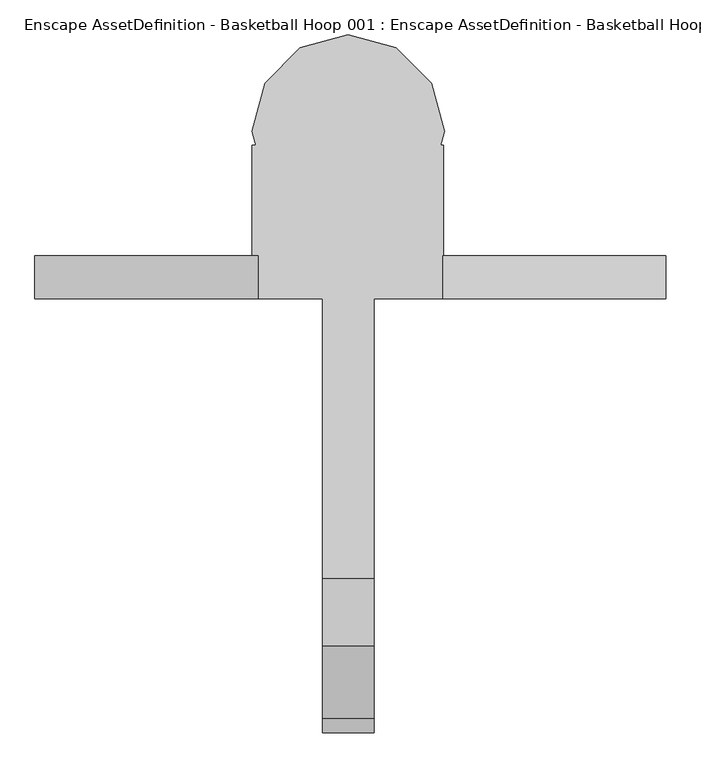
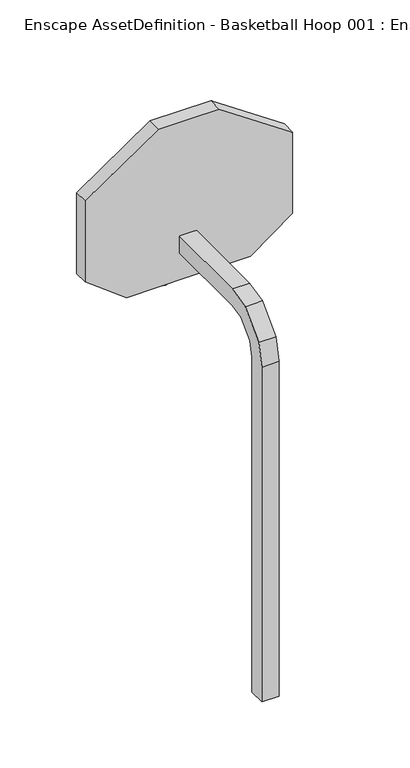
"""IFC4 building model written with IfcOpenShell, lengths in millimetres: geographic element geometry, Enscape AssetDefinition - Basketball Hoop 001 : Enscape AssetDefinition - Basketball Hoop 001."""

from ifc_helpers import new_model, si_unit, origin, place, context, project, spatial, triangles, source, transform, mapped, element, save


def enscape_assetdefinition_basketball_hoop_001_enscape_23c26aad(model_context):
    return source(origin(), model_context, "Body", "Tessellation", [
        triangles([(222.4868194, 1332.3317574, 2721.397261), (192.6792274, 1221.0882568, 2721.397261), (97.4517733, 1276.0677498, 2299.3959846), (-1e-05, 1109.8449017, 2721.397261), (111.2434097, 1139.6524572, 2721.397261), (112.5276064, 1332.331612, 2299.3959846), (-56.2638214, 1234.8800022, 2299.3959846), (-1.99e-05, 1219.8040329, 2299.3959846), (56.2637986, 1234.8800022, 2299.3959846), (-192.6792274, 1221.0882568, 2721.397261), (-111.2434097, 1139.6524572, 2721.397261), (-112.5276336, 1332.331612, 2299.3959846), (-97.4517824, 1276.0677498, 2299.3959846), (-222.4868194, 1332.3317574, 2721.397261), (-192.6792638, 1443.5749672, 2721.397261), (-3.99e-05, 1332.3317574, 2721.397261), (-97.4518096, 1388.5953289, 2299.3959846), (-56.2638622, 1429.7833672, 2299.3959846), (-111.2434824, 1525.0109848, 2721.397261), (-6.98e-05, 1444.8591911, 2299.3959846), (-9.97e-05, 1554.8186131, 2721.397261), (111.2433188, 1525.0111301, 2721.397261), (97.4517279, 1388.5954742, 2299.3959846), (192.6791729, 1443.5754032, 2721.397261), (56.2637441, 1429.7835125, 2299.3959846), (220.3278305, 1299.4875412, 2699.023336), (-222.9221852, 1299.4875412, 2699.023336), (-222.9221852, 1299.4875412, 2726.3524818), (-222.9221852, 1031.2447575, 2549.1307411), (220.3278305, 1031.2447575, 2549.1307411), (220.3278305, 1299.4875412, 2726.3524818), (220.3278305, 1031.2449028, 2726.3524818), (-222.9221852, 1031.2449028, 2726.3524818), (735.9803673, 1044.2596607, 2745.6908363), (735.9803673, 944.5943779, 3347.8168739), (735.9803673, 1044.2596607, 3347.8168739), (218.4450239, 1044.2598787, 3700.0003189), (735.9803673, 944.5942326, 2745.6908363), (442.0572833, 1044.2594427, 2526.4385216), (442.0572833, 944.5941599, 2526.4385216), (5.3916358, 1044.2594427, 2526.4385216), (-431.2740026, 1044.2594427, 2526.4385216), (-725.1972319, 1044.2596607, 3347.8168739), (-725.1972319, 1044.2596607, 2745.6908363), (-725.1972319, 944.5942326, 2745.6908363), (-431.2740026, 944.5941599, 2526.4385216), (-725.1972319, 944.5942326, 2971.8997032), (-725.1972319, 944.5943779, 3347.8168739), (5.3916358, 944.5941599, 2526.4385216), (-207.6617613, 944.5945232, 3700.0003189), (5.3916358, 944.5945232, 3700.0003189), (-207.6617613, 1044.2598787, 3700.0003189), (5.3916358, 1044.2598787, 3700.0003189), (218.4450239, 944.5945232, 3700.0003189), (-59.7992024, -59.7992024, 1e-05), (-59.7992024, 59.7992024, -1e-05), (59.7992024, 59.7992024, -1e-05), (59.7992024, -59.7992024, 1e-05), (59.7992024, -59.7987936, 2487.9490105), (-59.7992024, 59.7996112, 2487.9490105), (59.7992024, 59.7996112, 2487.9490105), (59.7992024, -25.6329467, 2651.5794296), (-59.7992024, -59.7987936, 2487.9490105), (-59.7992024, -25.6329467, 2651.5794296), (-59.7992115, 141.2951818, 2815.6915054), (59.7992024, 84.6830396, 2597.7940498), (59.7992024, 195.4824902, 2704.9197784), (-59.7992024, 195.4824902, 2704.9197784), (-59.7992024, 84.6830396, 2597.7940498), (59.7991888, 141.2951818, 2815.6915054), (-59.7992206, 298.4719524, 2853.905452), (59.7991888, 304.0134564, 2727.5701401), (-59.7992115, 304.0134564, 2727.5701401), (59.7991661, 968.0462168, 2727.5695587), (-59.7992524, 968.0462168, 2853.9051613), (-59.7992387, 968.0462168, 2727.5695587), (59.7991842, 298.4719524, 2853.905452), (59.7991524, 968.0462168, 2853.9051613)], [[75, 78, 76], [74, 76, 78], [74, 78, 72], [78, 75, 77], [77, 72, 78], [75, 76, 71], [71, 77, 75], [73, 71, 76], [76, 74, 73], [72, 73, 74], [73, 72, 68], [72, 77, 67], [67, 68, 72], [77, 71, 70], [70, 67, 77], [71, 73, 65], [68, 65, 73], [65, 70, 71], [65, 68, 64], [69, 64, 68], [68, 67, 69], [67, 70, 66], [66, 69, 67], [70, 65, 62], [64, 62, 65], [62, 66, 70], [62, 64, 59], [64, 69, 63], [63, 59, 64], [60, 63, 69], [69, 66, 60], [66, 62, 61], [59, 61, 62], [61, 60, 66], [61, 59, 57], [59, 63, 58], [58, 57, 59], [63, 60, 55], [55, 58, 63], [56, 55, 60], [60, 61, 56], [57, 56, 61], [57, 58, 56], [55, 56, 58], [53, 52, 51], [54, 37, 51], [53, 51, 37], [50, 51, 52], [50, 52, 48], [43, 48, 52], [43, 44, 48], [48, 44, 47], [48, 49, 50], [48, 47, 49], [49, 51, 50], [54, 51, 49], [45, 49, 47], [44, 45, 47], [46, 49, 45], [45, 44, 46], [42, 46, 44], [43, 41, 44], [53, 41, 52], [53, 37, 41], [52, 41, 43], [42, 41, 46], [49, 46, 41], [44, 41, 42], [49, 41, 40], [39, 40, 41], [40, 38, 49], [39, 41, 34], [39, 34, 40], [38, 40, 34], [37, 36, 41], [34, 41, 36], [35, 54, 49], [36, 37, 35], [54, 35, 37], [38, 35, 49], [38, 34, 35], [36, 35, 34], [33, 32, 28], [31, 28, 32], [31, 32, 26], [32, 33, 30], [30, 26, 32], [33, 28, 29], [29, 30, 33], [27, 29, 28], [28, 31, 27], [26, 27, 31], [26, 30, 27], [29, 27, 30], [25, 23, 6], [18, 25, 6], [20, 25, 18], [23, 25, 24], [22, 24, 25], [25, 20, 22], [21, 22, 20], [20, 18, 21], [19, 21, 18], [18, 17, 19], [15, 19, 17], [24, 22, 16], [22, 21, 16], [21, 19, 16], [19, 15, 16], [15, 14, 16], [14, 15, 12], [17, 12, 15], [17, 18, 12], [12, 13, 14], [10, 14, 13], [14, 10, 16], [13, 7, 10], [7, 18, 6], [12, 18, 7], [13, 12, 7], [11, 10, 7], [10, 11, 16], [7, 8, 11], [4, 11, 8], [11, 4, 16], [8, 9, 4], [9, 7, 6], [8, 7, 9], [3, 9, 6], [5, 4, 9], [9, 3, 5], [4, 5, 16], [2, 5, 3], [3, 6, 2], [5, 2, 16], [24, 1, 23], [6, 23, 1], [1, 2, 6], [1, 24, 16], [2, 1, 16]]),
    ])


if __name__ == "__main__":
    model = new_model("IFC4")
    model_context = context("Model", 3, world=origin())
    ifc_project = project(units=[si_unit("LENGTHUNIT", "METRE", prefix="MILLI")], contexts=[model_context])
    site = spatial("IfcSite", under=ifc_project)
    building = spatial("IfcBuilding", under=site)
    placement = place(None, origin())
    enscape_assetdefinition_basketball_hoop_001_enscape_shape = enscape_assetdefinition_basketball_hoop_001_enscape_23c26aad(model_context)
    element("IfcGeographicElement", 1, ObjectType="Enscape AssetDefinition - Basketball Hoop 001 : Enscape AssetDefinition - Basketball Hoop 001", at=placement, inside=building, context=model_context, shape_type="MappedRepresentation", body=[
        mapped(enscape_assetdefinition_basketball_hoop_001_enscape_shape, transform((0.0, 0.0, 0.0), x_axis=(1.0, 0.0, 0.0), y_axis=(0.0, 1.0, 0.0), z_axis=(0.0, 0.0, 1.0))),
    ])
    save(model, "model.ifc")
